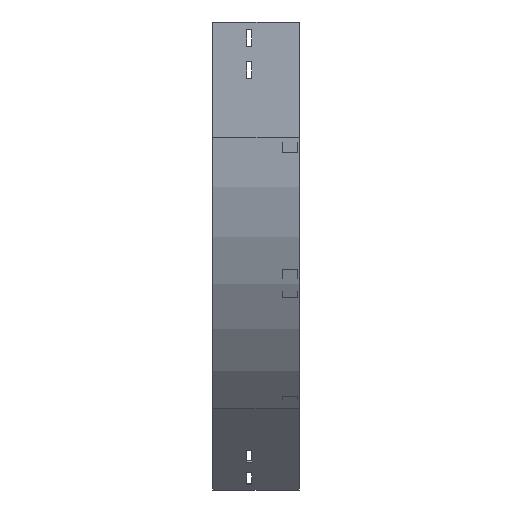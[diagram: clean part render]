
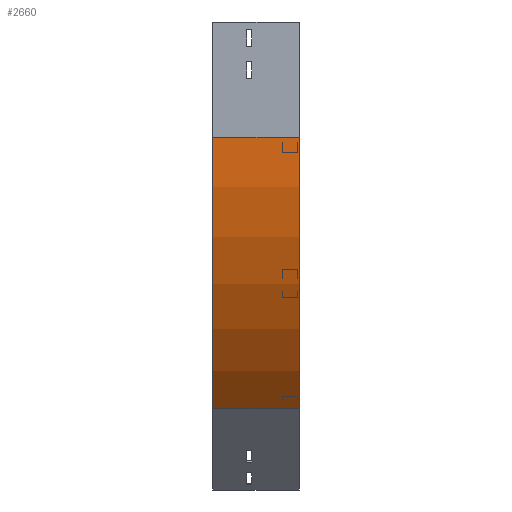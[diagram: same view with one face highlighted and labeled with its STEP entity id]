
A CAD part, left-side view. The second image highlights one B-rep face of the part: STEP entity #2660.
In plain terms, the highlighted cylindrical face has radius 500 mm (diameter 1000 mm), a partial arc.
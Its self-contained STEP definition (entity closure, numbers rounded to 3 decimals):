
#33 = DIRECTION ( 'NONE',  ( 0., -1., 0. ) ) ;
#48 = VECTOR ( 'NONE', #387, 1000. ) ;
#101 = FACE_OUTER_BOUND ( 'NONE', #1061, .T. ) ;
#209 = AXIS2_PLACEMENT_3D ( 'NONE', #1440, #3802, #1154 ) ;
#250 = CARTESIAN_POINT ( 'NONE',  ( 146.447, 112.5, -503.553 ) ) ;
#387 = DIRECTION ( 'NONE',  ( 0., -1., 0. ) ) ;
#403 = CARTESIAN_POINT ( 'NONE',  ( 500., 112.5, -150. ) ) ;
#676 = EDGE_CURVE ( 'NONE', #2216, #3724, #759, .T. ) ;
#759 = CIRCLE ( 'NONE', #3549, 500. ) ;
#907 = CARTESIAN_POINT ( 'NONE',  ( 0., 0., -150. ) ) ;
#1003 = DIRECTION ( 'NONE',  ( 0., -1., 0. ) ) ;
#1009 = CARTESIAN_POINT ( 'NONE',  ( 0., 112.5, -150. ) ) ;
#1061 = EDGE_LOOP ( 'NONE', ( #1475, #3374, #2411, #1430 ) ) ;
#1154 = DIRECTION ( 'NONE',  ( -1., 0., 0. ) ) ;
#1194 = EDGE_CURVE ( 'NONE', #2246, #2587, #2946, .T. ) ;
#1310 = DIRECTION ( 'NONE',  ( -1., 0., 0. ) ) ;
#1430 = ORIENTED_EDGE ( 'NONE', *, *, #3441, .T. ) ;
#1440 = CARTESIAN_POINT ( 'NONE',  ( 500., 0., -150. ) ) ;
#1475 = ORIENTED_EDGE ( 'NONE', *, *, #1194, .F. ) ;
#1736 = AXIS2_PLACEMENT_3D ( 'NONE', #3656, #1003, #2169 ) ;
#2169 = DIRECTION ( 'NONE',  ( 0., 0., -1. ) ) ;
#2216 = VERTEX_POINT ( 'NONE', #1009 ) ;
#2246 = VERTEX_POINT ( 'NONE', #3099 ) ;
#2282 = VECTOR ( 'NONE', #33, 1000. ) ;
#2411 = ORIENTED_EDGE ( 'NONE', *, *, #676, .T. ) ;
#2465 = CYLINDRICAL_SURFACE ( 'NONE', #1736, 500. ) ;
#2587 = VERTEX_POINT ( 'NONE', #3635 ) ;
#2660 = ADVANCED_FACE ( 'NONE', ( #101 ), #2465, .T. ) ;
#2728 = CARTESIAN_POINT ( 'NONE',  ( 146.447, 0., -503.553 ) ) ;
#2762 = DIRECTION ( 'NONE',  ( 0., -1., 0. ) ) ;
#2946 = CIRCLE ( 'NONE', #209, 500. ) ;
#3031 = LINE ( 'NONE', #2728, #2282 ) ;
#3099 = CARTESIAN_POINT ( 'NONE',  ( 0., 0., -150. ) ) ;
#3354 = EDGE_CURVE ( 'NONE', #2216, #2246, #3558, .T. ) ;
#3374 = ORIENTED_EDGE ( 'NONE', *, *, #3354, .F. ) ;
#3441 = EDGE_CURVE ( 'NONE', #3724, #2587, #3031, .T. ) ;
#3549 = AXIS2_PLACEMENT_3D ( 'NONE', #403, #2762, #1310 ) ;
#3558 = LINE ( 'NONE', #907, #48 ) ;
#3635 = CARTESIAN_POINT ( 'NONE',  ( 146.447, 0., -503.553 ) ) ;
#3656 = CARTESIAN_POINT ( 'NONE',  ( 500., 0., -150. ) ) ;
#3724 = VERTEX_POINT ( 'NONE', #250 ) ;
#3802 = DIRECTION ( 'NONE',  ( 0., -1., 0. ) ) ;
